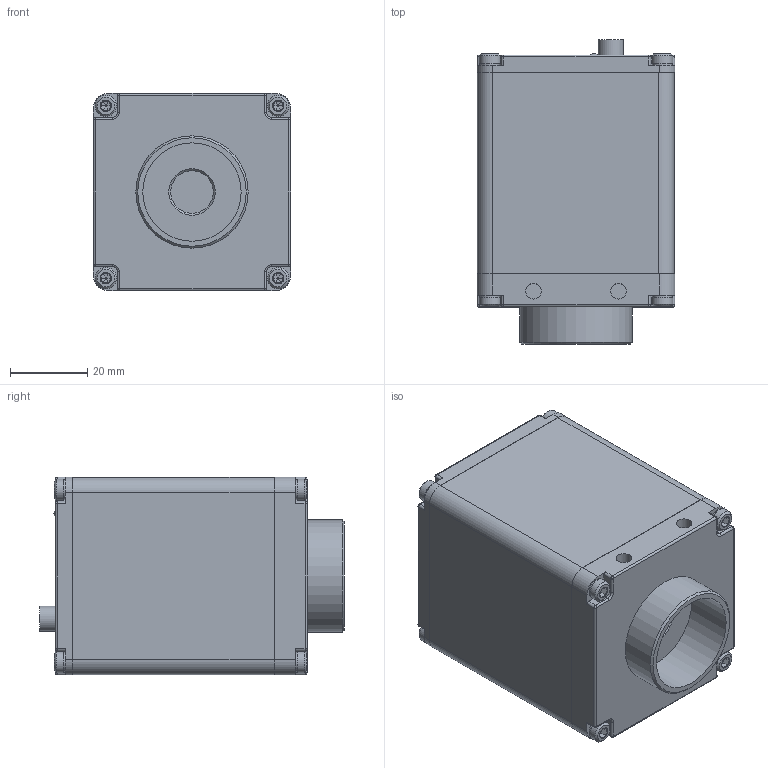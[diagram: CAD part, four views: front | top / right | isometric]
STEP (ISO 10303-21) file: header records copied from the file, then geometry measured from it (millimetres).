
FILE_DESCRIPTION(('STEP AP214'),'1');
FILE_NAME('BA200HD.stp','2025-01-20T07:52:59',(' '),(' '),'Spatial InterOp 3D',' ',' ');
FILE_SCHEMA(('AUTOMOTIVE_DESIGN { 1 0 10303 214 1 1 1 1 }'));
Length unit declared in the file: metre
Products named in the file (2): BA200HD; Component1
Assembly tree (1 placements, depth 2):
  BA200HD
    Component1
Bounding box: 51 x 78.61 x 51 mm (x, y, z)
Volume: 166298.3 mm3; surface area: 22271.9 mm2
Topology: 1 solids, 1 shells, 406 faces, 945 edges, 592 vertices
Faces by surface type: plane 235, cylinder 125, cone 20, bspline 16, torus 8, sphere 2
Full cylindrical faces by diameter (mm): 2.1 x1, 2.6 x1, 4 x4, 5 x8, 5.5 x8, 5.9 x1, 6.5 x1, 11 x1, 25.4 x1, 29 x1
Entity records: 18876 total; most frequent: CARTESIAN_POINT 2094, DIRECTION 1962, ORIENTED_EDGE 1750, STYLED_ITEM 1282, PRESENTATION_STYLE_ASSIGNMENT 1282, COLOUR_RGB 1282, EDGE_CURVE 875, CURVE_STYLE 875
